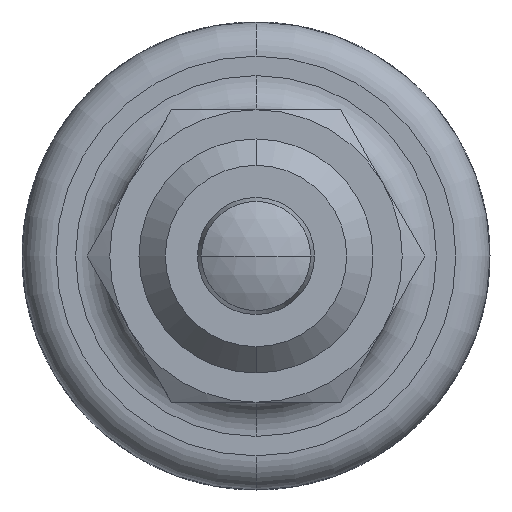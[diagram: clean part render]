
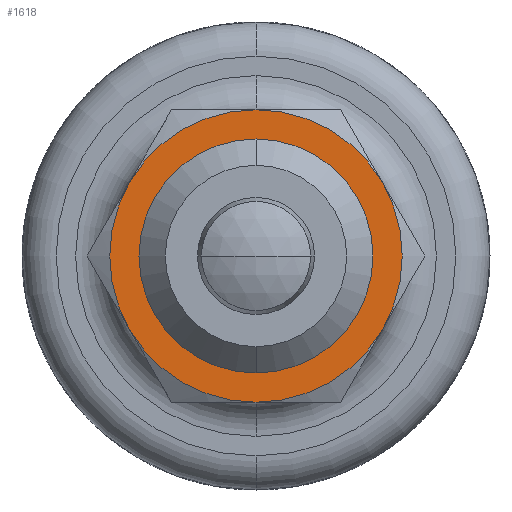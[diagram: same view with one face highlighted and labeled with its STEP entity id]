
A CAD part, front view. The second image highlights one B-rep face of the part: STEP entity #1618.
In plain terms, the highlighted planar face has unit normal (0, -1, 0).
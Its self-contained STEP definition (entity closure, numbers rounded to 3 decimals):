
#1546 = EDGE_CURVE ( 'NONE', #1547, #1548, #4582, .T. ) ;
#1547 = VERTEX_POINT ( 'NONE', #4574 ) ;
#1548 = VERTEX_POINT ( 'NONE', #4573 ) ;
#1618 = ADVANCED_FACE ( 'NONE', ( #4693, #4687 ), #4686, .F. ) ;
#1619 = EDGE_LOOP ( 'NONE', ( #1620, #1680 ) ) ;
#1620 = ORIENTED_EDGE ( 'NONE', *, *, #1679, .T. ) ;
#1667 = EDGE_CURVE ( 'NONE', #1692, #1694, #4841, .T. ) ;
#1668 = ORIENTED_EDGE ( 'NONE', *, *, #1669, .T. ) ;
#1669 = EDGE_CURVE ( 'NONE', #1694, #1670, #4836, .T. ) ;
#1670 = VERTEX_POINT ( 'NONE', #4831 ) ;
#1671 = ORIENTED_EDGE ( 'NONE', *, *, #1672, .T. ) ;
#1672 = EDGE_CURVE ( 'NONE', #1670, #1684, #4830, .T. ) ;
#1679 = EDGE_CURVE ( 'NONE', #1548, #1547, #4814, .T. ) ;
#1680 = ORIENTED_EDGE ( 'NONE', *, *, #1546, .T. ) ;
#1681 = EDGE_LOOP ( 'NONE', ( #1682, #1686, #1689, #1693, #1668, #1671 ) ) ;
#1682 = ORIENTED_EDGE ( 'NONE', *, *, #1683, .T. ) ;
#1683 = EDGE_CURVE ( 'NONE', #1684, #1685, #4871, .T. ) ;
#1684 = VERTEX_POINT ( 'NONE', #4866 ) ;
#1685 = VERTEX_POINT ( 'NONE', #4865 ) ;
#1686 = ORIENTED_EDGE ( 'NONE', *, *, #1687, .T. ) ;
#1687 = EDGE_CURVE ( 'NONE', #1685, #1688, #4864, .T. ) ;
#1688 = VERTEX_POINT ( 'NONE', #4859 ) ;
#1689 = ORIENTED_EDGE ( 'NONE', *, *, #1690, .T. ) ;
#1690 = EDGE_CURVE ( 'NONE', #1688, #1692, #4858, .T. ) ;
#1692 = VERTEX_POINT ( 'NONE', #4848 ) ;
#1693 = ORIENTED_EDGE ( 'NONE', *, *, #1667, .T. ) ;
#1694 = VERTEX_POINT ( 'NONE', #4847 ) ;
#4573 = CARTESIAN_POINT ( 'NONE',  ( 0., 0., 3.7 ) ) ;
#4574 = CARTESIAN_POINT ( 'NONE',  ( 0., 0., -3.7 ) ) ;
#4575 = DIRECTION ( 'NONE',  ( 0., 0., 1. ) ) ;
#4576 = DIRECTION ( 'NONE',  ( 0., 1., 0. ) ) ;
#4577 = CARTESIAN_POINT ( 'NONE',  ( 0., 0., 0. ) ) ;
#4578 = AXIS2_PLACEMENT_3D ( 'NONE', #4577, #4576, #4575 ) ;
#4582 = CIRCLE ( 'NONE', #4578, 3.7 ) ;
#4685 = AXIS2_PLACEMENT_3D ( 'NONE', #4747, #4746, #4745 ) ;
#4686 = PLANE ( 'NONE',  #4685 ) ;
#4687 = FACE_OUTER_BOUND ( 'NONE', #1681, .T. ) ;
#4693 = FACE_BOUND ( 'NONE', #1619, .T. ) ;
#4745 = DIRECTION ( 'NONE',  ( 0., 0., 1. ) ) ;
#4746 = DIRECTION ( 'NONE',  ( 0., 1., 0. ) ) ;
#4747 = CARTESIAN_POINT ( 'NONE',  ( 2.887, 0., -5. ) ) ;
#4810 = DIRECTION ( 'NONE',  ( 0., 0., 1. ) ) ;
#4811 = DIRECTION ( 'NONE',  ( 0., 1., 0. ) ) ;
#4812 = CARTESIAN_POINT ( 'NONE',  ( 0., 0., 0. ) ) ;
#4813 = AXIS2_PLACEMENT_3D ( 'NONE', #4812, #4811, #4810 ) ;
#4814 = CIRCLE ( 'NONE', #4813, 3.7 ) ;
#4826 = DIRECTION ( 'NONE',  ( 0., 0., -1. ) ) ;
#4827 = DIRECTION ( 'NONE',  ( 0., -1., 0. ) ) ;
#4828 = CARTESIAN_POINT ( 'NONE',  ( 0., 0., 0. ) ) ;
#4829 = AXIS2_PLACEMENT_3D ( 'NONE', #4828, #4827, #4826 ) ;
#4830 = CIRCLE ( 'NONE', #4829, 5. ) ;
#4831 = CARTESIAN_POINT ( 'NONE',  ( 4.33, 0., -2.5 ) ) ;
#4832 = DIRECTION ( 'NONE',  ( 0., 0., -1. ) ) ;
#4833 = DIRECTION ( 'NONE',  ( 0., -1., 0. ) ) ;
#4834 = CARTESIAN_POINT ( 'NONE',  ( 0., 0., 0. ) ) ;
#4835 = AXIS2_PLACEMENT_3D ( 'NONE', #4834, #4833, #4832 ) ;
#4836 = CIRCLE ( 'NONE', #4835, 5. ) ;
#4837 = DIRECTION ( 'NONE',  ( 0., 0., -1. ) ) ;
#4838 = DIRECTION ( 'NONE',  ( 0., -1., 0. ) ) ;
#4839 = CARTESIAN_POINT ( 'NONE',  ( 0., 0., 0. ) ) ;
#4840 = AXIS2_PLACEMENT_3D ( 'NONE', #4839, #4838, #4837 ) ;
#4841 = CIRCLE ( 'NONE', #4840, 5. ) ;
#4847 = CARTESIAN_POINT ( 'NONE',  ( 0., 0., -5. ) ) ;
#4848 = CARTESIAN_POINT ( 'NONE',  ( -4.33, 0., -2.5 ) ) ;
#4854 = DIRECTION ( 'NONE',  ( 0., 0., -1. ) ) ;
#4855 = DIRECTION ( 'NONE',  ( 0., -1., 0. ) ) ;
#4856 = CARTESIAN_POINT ( 'NONE',  ( 0., 0., 0. ) ) ;
#4857 = AXIS2_PLACEMENT_3D ( 'NONE', #4856, #4855, #4854 ) ;
#4858 = CIRCLE ( 'NONE', #4857, 5. ) ;
#4859 = CARTESIAN_POINT ( 'NONE',  ( -4.33, 0., 2.5 ) ) ;
#4860 = DIRECTION ( 'NONE',  ( 0., 0., -1. ) ) ;
#4861 = DIRECTION ( 'NONE',  ( 0., -1., 0. ) ) ;
#4862 = CARTESIAN_POINT ( 'NONE',  ( 0., 0., 0. ) ) ;
#4863 = AXIS2_PLACEMENT_3D ( 'NONE', #4862, #4861, #4860 ) ;
#4864 = CIRCLE ( 'NONE', #4863, 5. ) ;
#4865 = CARTESIAN_POINT ( 'NONE',  ( 0., 0., 5. ) ) ;
#4866 = CARTESIAN_POINT ( 'NONE',  ( 4.33, 0., 2.5 ) ) ;
#4867 = DIRECTION ( 'NONE',  ( 0., 0., -1. ) ) ;
#4868 = DIRECTION ( 'NONE',  ( 0., -1., 0. ) ) ;
#4869 = CARTESIAN_POINT ( 'NONE',  ( 0., 0., 0. ) ) ;
#4870 = AXIS2_PLACEMENT_3D ( 'NONE', #4869, #4868, #4867 ) ;
#4871 = CIRCLE ( 'NONE', #4870, 5. ) ;
